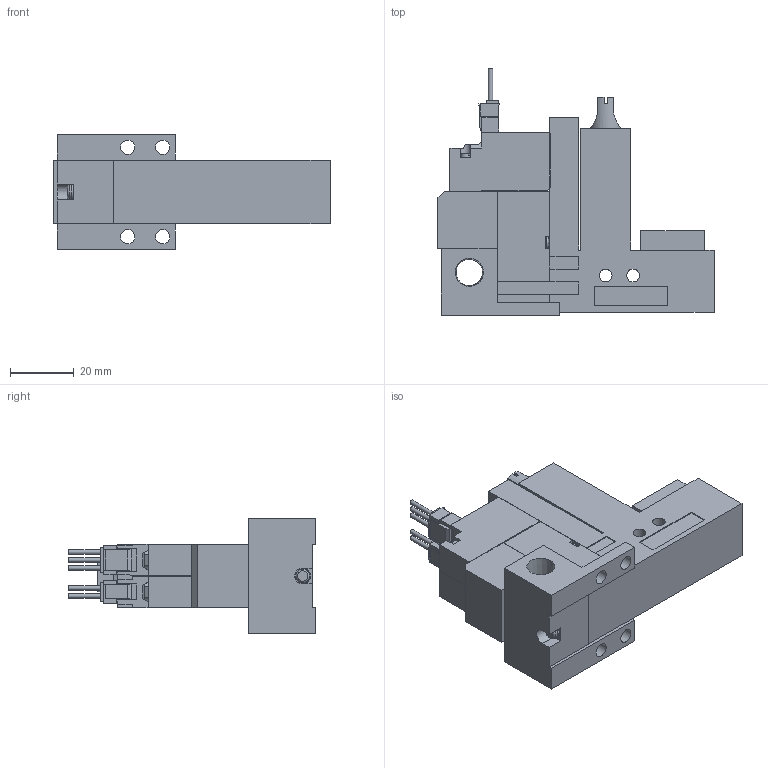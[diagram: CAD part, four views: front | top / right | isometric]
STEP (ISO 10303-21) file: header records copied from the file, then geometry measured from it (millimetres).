
FILE_DESCRIPTION(('STEP AP203'),'1');
FILE_NAME('ZL5WLR101.stp','2025-02-18T05:19:20',(' '),(' '),'Spatial InterOp 3D',' ',' ');
FILE_SCHEMA(('CONFIG_CONTROL_DESIGN'));
Length unit declared in the file: millimetre
Products named in the file (5): BMC22M※※※※ZL5WLR101; Solenoid valve W; Pressure sensor ZL; Unit L; Base MR10R
Assembly tree (4 placements, depth 2):
  BMC22M※※※※ZL5WLR101
    Solenoid valve W
    Pressure sensor ZL
    Unit L
    Base MR10R
Bounding box: 86.6 x 77.45 x 36 mm (x, y, z)
Volume: 82464.3 mm3; surface area: 24843 mm2
Topology: 4 solids, 4 shells, 348 faces, 947 edges, 626 vertices
Faces by surface type: plane 296, cylinder 40, cone 9, torus 3
Full cylindrical faces by diameter (mm): 1.4 x5, 2.5 x1, 3 x4, 3.5 x4, 3.6 x1, 4 x2, 4.134 x1, 4.5 x4, 5.2 x1, 6 x1, 6.6 x1, 8.279 x1
Entity records: 10902 total; most frequent: CARTESIAN_POINT 1992, ORIENTED_EDGE 1778, DIRECTION 1711, EDGE_CURVE 889, LINE 763, VECTOR 763, VERTEX_POINT 610, AXIS2_PLACEMENT_3D 474
